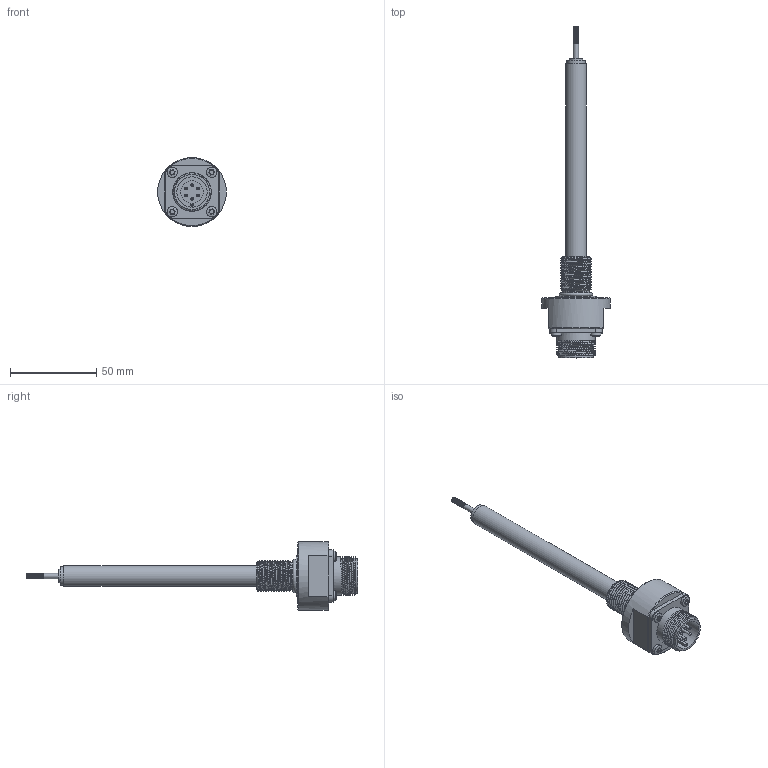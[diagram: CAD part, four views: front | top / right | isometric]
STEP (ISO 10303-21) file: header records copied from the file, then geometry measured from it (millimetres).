
FILE_DESCRIPTION( ( 'Unknown' ), '1' );
FILE_NAME( 'N:/Engineering/CAD/LVDT/HYD/Kunden-3D-Modell/SM25-HYD-18-S.stp', 'Unknown', ( 'Unknown' ), ( 'Unknown' ), 'PSStep 17.0.49', 'Unknown', ' ' );
FILE_SCHEMA( ( 'AUTOMOTIVE_DESIGN { 1 0 10303 214 1 1 1 1 }' ) );
Length unit declared in the file: millimetre
Products named in the file (9): Assem1; Endkappe; Innenrohr_SM5-HYD; Kernverlängerung_SM5-HYD; SM-HYD-Flansch_M18_vereinfacht; O-Ring_15,4x2,1; MIL-Stecker_2; DIN7985_M3-6_Torx; Aussenrohr_SM25-HYD_vereinfacht
Assembly tree (11 placements, depth 2):
  Assem1
    Endkappe
    Innenrohr_SM5-HYD
    Kernverlängerung_SM5-HYD
    SM-HYD-Flansch_M18_vereinfacht
    O-Ring_15,4x2,1
    MIL-Stecker_2
    DIN7985_M3-6_Torx  x4
    Aussenrohr_SM25-HYD_vereinfacht
Bounding box: 40 x 192.9 x 40 mm (x, y, z)
Volume: 44989.1 mm3; surface area: 23241.7 mm2
Topology: 11 solids, 11 shells, 255 faces, 589 edges, 385 vertices
Faces by surface type: plane 132, cylinder 82, cone 22, bspline 14, sphere 4, torus 1
Full cylindrical faces by diameter (mm): 1.4 x6, 1.6 x6, 2.013 x1, 2.4 x1, 2.5 x8, 3 x9, 4 x1, 6 x6, 8 x1, 10 x1, 11 x2, 12 x3, 13 x1, 15.8 x1, 17.6 x1, 18.8 x1, 20.2 x1, 22.3 x7, 24 x1, 40 x1
Entity records: 13563 total; most frequent: CARTESIAN_POINT 8176, DIRECTION 792, ORIENTED_EDGE 656, AXIS2_PLACEMENT_3D 336, EDGE_CURVE 328, EDGE_LOOP 289, VERTEX_POINT 255, FACE_OUTER_BOUND 236
